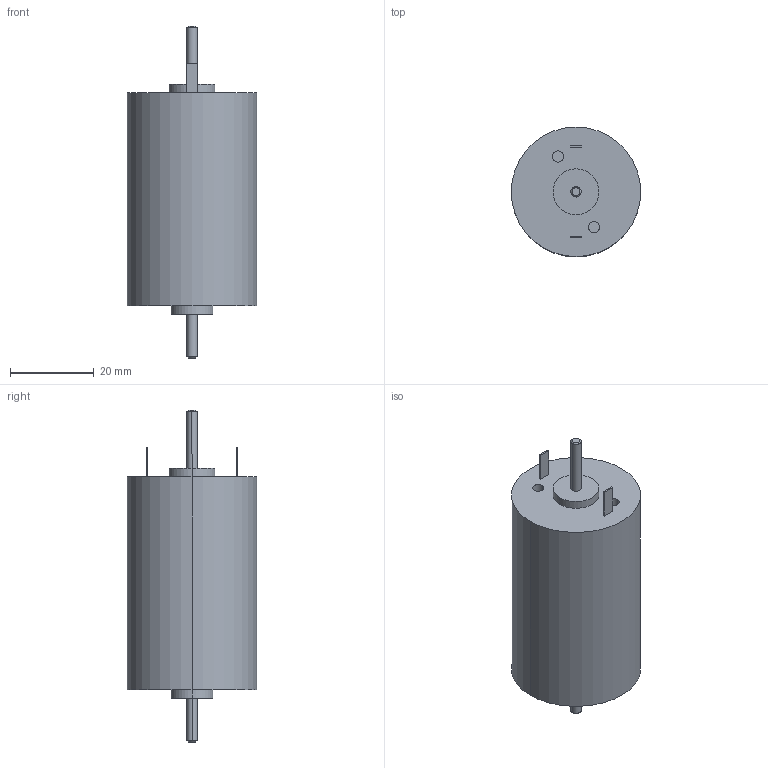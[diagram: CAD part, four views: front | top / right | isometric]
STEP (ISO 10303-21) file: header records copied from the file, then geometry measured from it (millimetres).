
FILE_DESCRIPTION (( 'STEP AP214' ), '1' );
FILE_NAME ('1_13_021_318.STEP', '2015-08-04T07:20:51', ( '' ), ( '' ), 'SwSTEP 2.0', 'SolidWorks 2014', '' );
FILE_SCHEMA (( 'AUTOMOTIVE_DESIGN' ));
Length unit declared in the file: millimetre
Products named in the file (3): Assembly-1; 1.13.021.318_Einbaudummy; 1_13_021_318
Assembly tree (2 placements, depth 3):
  1_13_021_318
    Assembly-1
      1.13.021.318_Einbaudummy
Bounding box: 31 x 31 x 79.5 mm (x, y, z)
Volume: 38788.3 mm3; surface area: 7152.8 mm2
Topology: 1 solids, 1 shells, 48 faces, 98 edges, 64 vertices
Faces by surface type: cylinder 22, plane 22, cone 4
Entity records: 1370 total; most frequent: DIRECTION 254, CARTESIAN_POINT 216, ORIENTED_EDGE 196, AXIS2_PLACEMENT_3D 102, EDGE_CURVE 98, VERTEX_POINT 64, EDGE_LOOP 60, VECTOR 50
